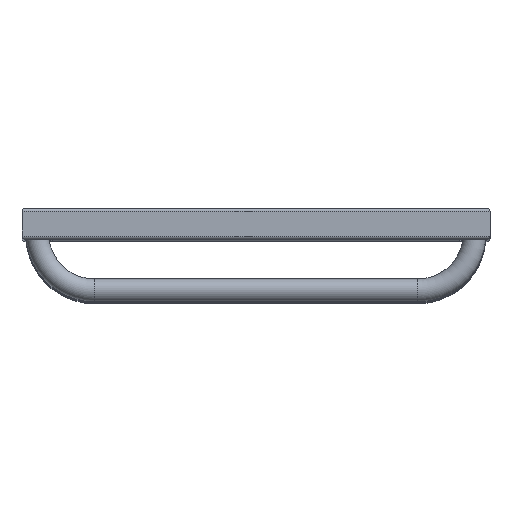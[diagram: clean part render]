
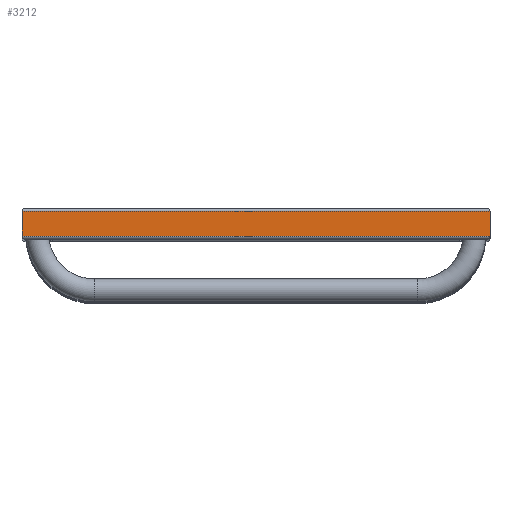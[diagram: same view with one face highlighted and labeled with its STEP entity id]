
A CAD part, top view. The second image highlights one B-rep face of the part: STEP entity #3212.
In plain terms, the highlighted planar face has unit normal (0, 0, 1).
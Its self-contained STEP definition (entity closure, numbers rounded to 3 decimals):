
#243=CARTESIAN_POINT('',(225.0,12.,1215.0));
#244=VERTEX_POINT('',#243);
#251=CARTESIAN_POINT('',(225.0,-12.,1215.0));
#252=VERTEX_POINT('',#251);
#253=CARTESIAN_POINT('',(225.0,12.,1215.0));
#254=DIRECTION('',(0.0,-1.0,0.0));
#255=VECTOR('',#254,24.0);
#256=LINE('',#253,#255);
#257=EDGE_CURVE('',#244,#252,#256,.T.);
#3063=CARTESIAN_POINT('',(-225.0,12.,1215.0));
#3064=VERTEX_POINT('',#3063);
#3065=CARTESIAN_POINT('',(-225.0,12.,1215.0));
#3066=DIRECTION('',(1.0,0.0,0.0));
#3067=VECTOR('',#3066,450.0);
#3068=LINE('',#3065,#3067);
#3069=EDGE_CURVE('',#3064,#244,#3068,.T.);
#3107=CARTESIAN_POINT('',(-225.0,-12.,1215.0));
#3108=VERTEX_POINT('',#3107);
#3115=CARTESIAN_POINT('',(-225.0,-12.,1215.0));
#3116=DIRECTION('',(0.0,1.0,0.0));
#3117=VECTOR('',#3116,24.);
#3118=LINE('',#3115,#3117);
#3119=EDGE_CURVE('',#3108,#3064,#3118,.T.);
#3171=CARTESIAN_POINT('',(225.0,-12.,1215.0));
#3172=DIRECTION('',(-1.0,0.0,0.0));
#3173=VECTOR('',#3172,450.0);
#3174=LINE('',#3171,#3173);
#3175=EDGE_CURVE('',#252,#3108,#3174,.T.);
#3201=CARTESIAN_POINT('',(210.0,0.,1215.0));
#3202=DIRECTION('',(0.0,0.0,1.0));
#3203=DIRECTION('',(1.0,0.0,0.0));
#3204=AXIS2_PLACEMENT_3D('',#3201,#3202,#3203);
#3205=PLANE('',#3204);
#3206=ORIENTED_EDGE('',*,*,#3069,.F.);
#3207=ORIENTED_EDGE('',*,*,#3119,.F.);
#3208=ORIENTED_EDGE('',*,*,#3175,.F.);
#3209=ORIENTED_EDGE('',*,*,#257,.F.);
#3210=EDGE_LOOP('',(#3206,#3207,#3208,#3209));
#3211=FACE_OUTER_BOUND('',#3210,.T.);
#3212=ADVANCED_FACE('',(#3211),#3205,.T.);
